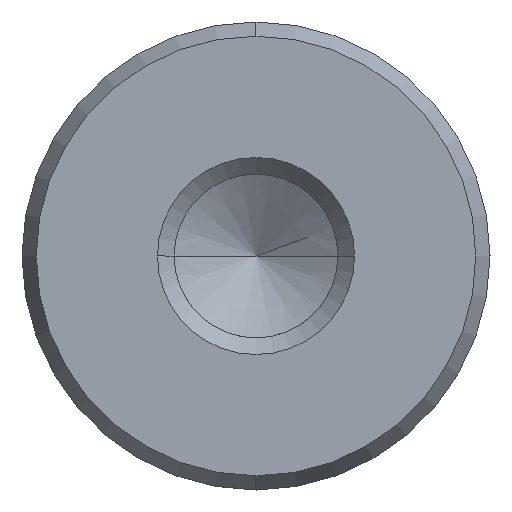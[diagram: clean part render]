
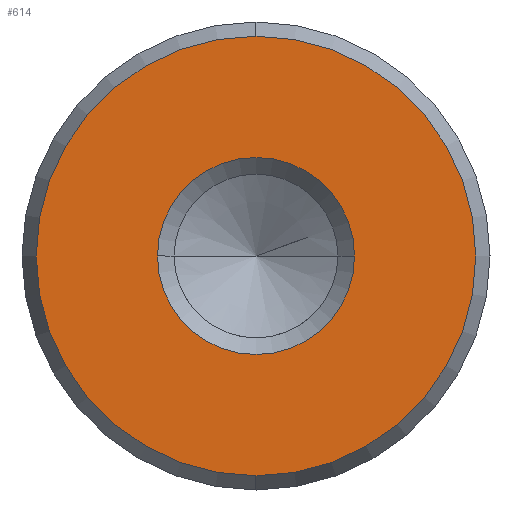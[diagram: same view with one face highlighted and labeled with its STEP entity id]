
A CAD part, left-side view. The second image highlights one B-rep face of the part: STEP entity #614.
In plain terms, the highlighted planar face has unit normal (-1, 0, 0).
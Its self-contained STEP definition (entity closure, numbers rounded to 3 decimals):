
#528=CARTESIAN_POINT('Vertex',(0.,0.,-8.923)) ;
#531=CARTESIAN_POINT('Axis2P3D Location',(0.,0.,0.)) ;
#535=CARTESIAN_POINT('Vertex',(0.,8.923,0.)) ;
#538=CARTESIAN_POINT('Axis2P3D Location',(0.,0.,0.)) ;
#542=CARTESIAN_POINT('Vertex',(0.,0.,8.923)) ;
#564=CARTESIAN_POINT('Axis2P3D Location',(0.,0.,0.)) ;
#568=CARTESIAN_POINT('Vertex',(0.,-8.923,0.)) ;
#571=CARTESIAN_POINT('Axis2P3D Location',(0.,0.,0.)) ;
#585=CARTESIAN_POINT('Axis2P3D Location',(0.,0.,0.)) ;
#596=CARTESIAN_POINT('Axis2P3D Location',(0.,0.,0.)) ;
#600=CARTESIAN_POINT('Vertex',(0.,4.,0.)) ;
#602=CARTESIAN_POINT('Vertex',(0.,-4.,0.)) ;
#605=CARTESIAN_POINT('Axis2P3D Location',(0.,0.,0.)) ;
#532=DIRECTION('Axis2P3D Direction',(1.,0.,-0.)) ;
#539=DIRECTION('Axis2P3D Direction',(1.,0.,-0.)) ;
#565=DIRECTION('Axis2P3D Direction',(1.,0.,-0.)) ;
#572=DIRECTION('Axis2P3D Direction',(1.,0.,-0.)) ;
#586=DIRECTION('Axis2P3D Direction',(1.,0.,-0.)) ;
#587=DIRECTION('Axis2P3D XDirection',(-0.,0.,-1.)) ;
#597=DIRECTION('Axis2P3D Direction',(1.,0.,-0.)) ;
#606=DIRECTION('Axis2P3D Direction',(1.,0.,-0.)) ;
#533=AXIS2_PLACEMENT_3D('Circle Axis2P3D',#531,#532,$) ;
#540=AXIS2_PLACEMENT_3D('Circle Axis2P3D',#538,#539,$) ;
#566=AXIS2_PLACEMENT_3D('Circle Axis2P3D',#564,#565,$) ;
#573=AXIS2_PLACEMENT_3D('Circle Axis2P3D',#571,#572,$) ;
#588=AXIS2_PLACEMENT_3D('Plane Axis2P3D',#585,#586,#587) ;
#598=AXIS2_PLACEMENT_3D('Circle Axis2P3D',#596,#597,$) ;
#607=AXIS2_PLACEMENT_3D('Circle Axis2P3D',#605,#606,$) ;
#591=ORIENTED_EDGE('',*,*,#537,.F.) ;
#592=ORIENTED_EDGE('',*,*,#575,.F.) ;
#593=ORIENTED_EDGE('',*,*,#570,.F.) ;
#594=ORIENTED_EDGE('',*,*,#544,.F.) ;
#611=ORIENTED_EDGE('',*,*,#604,.T.) ;
#612=ORIENTED_EDGE('',*,*,#609,.T.) ;
#613=FACE_BOUND('',#610,.T.) ;
#614=ADVANCED_FACE('720-19x180',(#595,#613),#589,.F.) ;
#534=CIRCLE('generated circle',#533,8.923) ;
#541=CIRCLE('generated circle',#540,8.923) ;
#567=CIRCLE('generated circle',#566,8.923) ;
#574=CIRCLE('generated circle',#573,8.923) ;
#599=CIRCLE('generated circle',#598,4.) ;
#608=CIRCLE('generated circle',#607,4.) ;
#537=EDGE_CURVE('',#529,#536,#534,.T.) ;
#544=EDGE_CURVE('',#536,#543,#541,.T.) ;
#570=EDGE_CURVE('',#543,#569,#567,.T.) ;
#575=EDGE_CURVE('',#569,#529,#574,.T.) ;
#604=EDGE_CURVE('',#601,#603,#599,.T.) ;
#609=EDGE_CURVE('',#603,#601,#608,.T.) ;
#590=EDGE_LOOP('',(#591,#592,#593,#594)) ;
#610=EDGE_LOOP('',(#611,#612)) ;
#595=FACE_OUTER_BOUND('',#590,.T.) ;
#589=PLANE('Plane',#588) ;
#529=VERTEX_POINT('',#528) ;
#536=VERTEX_POINT('',#535) ;
#543=VERTEX_POINT('',#542) ;
#569=VERTEX_POINT('',#568) ;
#601=VERTEX_POINT('',#600) ;
#603=VERTEX_POINT('',#602) ;
